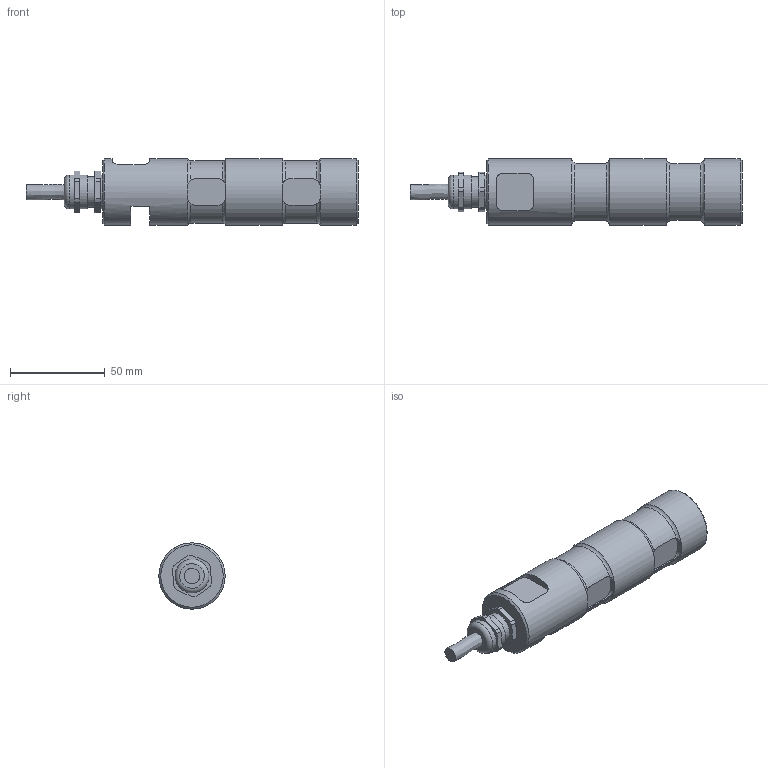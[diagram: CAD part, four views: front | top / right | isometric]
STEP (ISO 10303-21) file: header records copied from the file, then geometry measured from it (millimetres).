
FILE_DESCRIPTION(/* description */ ('Alibre Inc.'),/* implementation_level */ '2;1');
FILE_NAME(/* name */ 'export0',/* time_stamp */ '2015-11-12T15:18:51+01:00',/* author */ (''),/* organization */ (''),/* preprocessor_version */ 'ST-DEVELOPER v14',/* originating_system */ 'Alibre',/* authorisation */ '');
FILE_SCHEMA (('CONFIG_CONTROL_DESIGN'));
Length unit declared in the file: centimetre
Products named in the file (6): ID_1; ID_2; ID_3
Bounding box: 175.45 x 35 x 35 mm (x, y, z)
Volume: 124545.8 mm3; surface area: 21606.5 mm2
Topology: 4 solids, 4 shells, 111 faces, 273 edges, 174 vertices
Faces by surface type: plane 51, cylinder 45, torus 10, cone 4, bspline 1
Full cylindrical faces by diameter (mm): 8 x1, 14.376 x1, 16 x2, 18 x2, 35 x3
Entity records: 5622 total; most frequent: CARTESIAN_POINT 2746, ORIENTED_EDGE 502, DIRECTION 387, EDGE_CURVE 251, VERTEX_POINT 170, AXIS2_PLACEMENT_3D 158, FACE_BOUND 135, EDGE_LOOP 133
